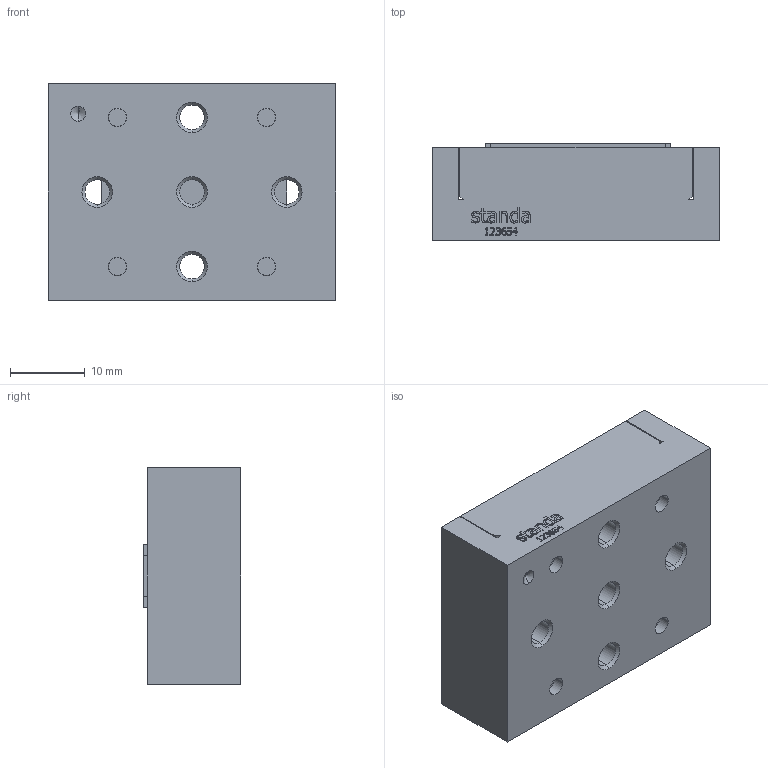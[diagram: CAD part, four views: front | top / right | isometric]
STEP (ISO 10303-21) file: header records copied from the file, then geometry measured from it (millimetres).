
FILE_DESCRIPTION (( 'STEP AP203' ), '1' );
FILE_NAME ('7T67-6.STEP', '2010-02-01T09:22:57', ( 'Darius' ), ( '' ), 'SwSTEP 2.0', 'SolidWorks 2003240', '' );
FILE_SCHEMA (( 'CONFIG_CONTROL_DESIGN' ));
Length unit declared in the file: millimetre
Products named in the file (1): 7T67-6
Bounding box: 38.5 x 13.1 x 29 mm (x, y, z)
Volume: 12105 mm3; surface area: 8117.8 mm2
Topology: 1 solids, 5 shells, 518 faces, 1327 edges, 845 vertices
Faces by surface type: plane 231, bspline 173, cylinder 74, cone 40
Entity records: 19272 total; most frequent: CARTESIAN_POINT 7710, ORIENTED_EDGE 2626, DIRECTION 1883, EDGE_CURVE 1313, VERTEX_POINT 845, LINE 711, VECTOR 711, EDGE_LOOP 604
